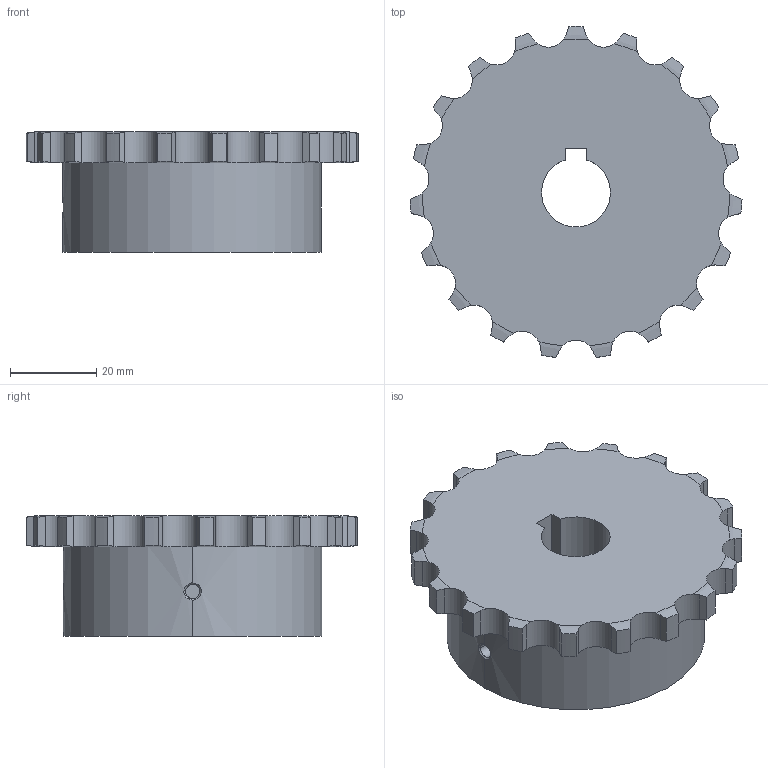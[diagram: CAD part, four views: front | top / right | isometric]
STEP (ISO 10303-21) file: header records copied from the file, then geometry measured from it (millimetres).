
FILE_DESCRIPTION((''),'2;1');
FILE_NAME('510-201-1619_PRT','2021-02-13T',('Brieden'),('Brieden'),'PRO/ENGINEER BY PARAMETRIC TECHNOLOGY CORPORATION, 2010160','PRO/ENGINEER BY PARAMETRIC TECHNOLOGY CORPORATION, 2010160','');
FILE_SCHEMA(('AUTOMOTIVE_DESIGN { 1 0 10303 214 1 1 1 1 }'));
Length unit declared in the file: millimetre
Products named in the file (1): 510-201-1619_PRT
Bounding box: 77.1 x 76.87 x 28 mm (x, y, z)
Volume: 82289.9 mm3; surface area: 15788.9 mm2
Topology: 1 solids, 1 shells, 135 faces, 387 edges, 256 vertices
Faces by surface type: cylinder 83, torus 38, plane 8, bspline 6
Entity records: 6523 total; most frequent: CARTESIAN_POINT 1978, ORIENTED_EDGE 774, DIRECTION 605, PRESENTATION_STYLE_ASSIGNMENT 388, STYLED_ITEM 388, CURVE_STYLE 387, EDGE_CURVE 387, VERTEX_POINT 256
